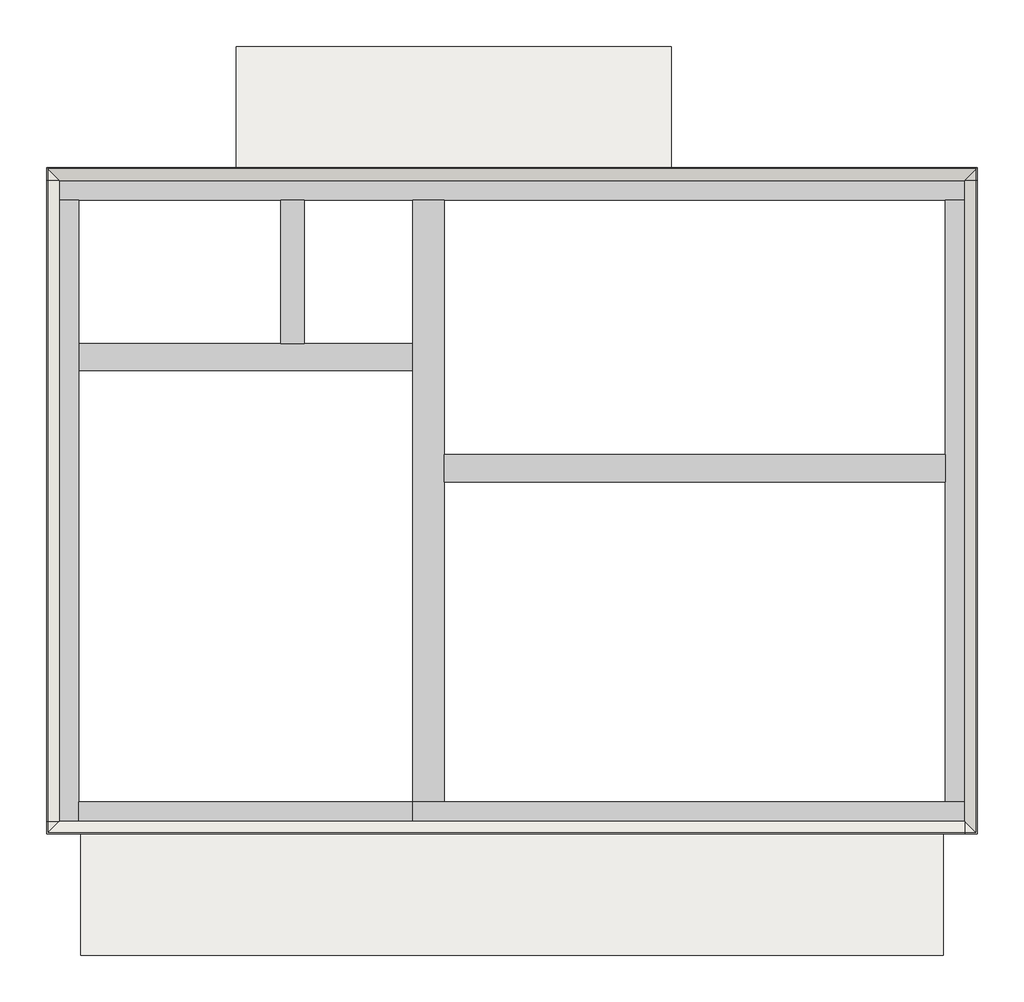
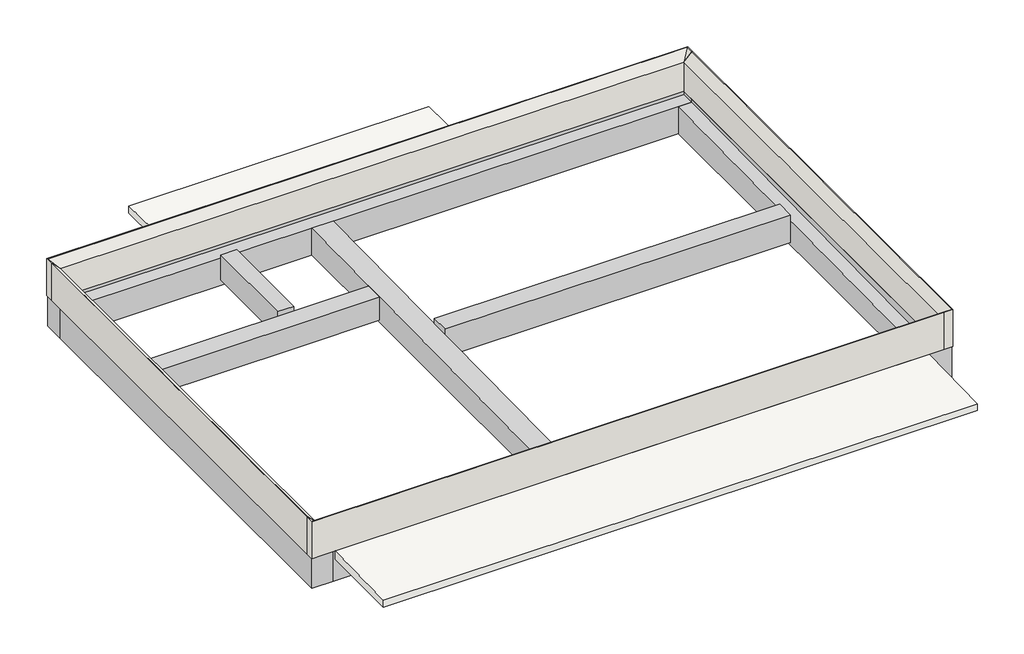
# One storey: 9 beams, 4 walls, 2 slabs.
"""IFC4 building model written with IfcOpenShell, lengths in millimetres."""

from ifc_helpers import new_model, si_unit, frame, origin, place, context, project, spatial, polyline, outline, extrude, faceted_brep, element, save

model = new_model("IFC4")

# Units and contexts
model_context = context("Model", 3, world=origin())
ifc_project = project(units=[si_unit("LENGTHUNIT", "METRE", prefix="MILLI")], contexts=[model_context])

# Site, building, storey
site = spatial("IfcSite", under=ifc_project)
building = spatial("IfcBuilding", under=site)
storey = spatial("IfcBuildingStorey", under=building, Name="RSL", Elevation=12480.0)

# Beams
placement = place(None, origin())
element("IfcBeam", 1, ObjectType="コンクリート-長方形梁 : B1-350x550", at=placement, inside=storey, context=model_context, shape_type="Brep", body=[
    faceted_brep([(-3381.7658988, 948.6001516, 11930.0), (-616.7658988, 948.6001516, 11930.0), (918.2341012, 948.6001516, 11930.0), (918.2341012, 948.6001516, 12384.3408938), (-3381.7658988, 948.6001516, 12384.3408938), (-3381.7658988, 1298.6001516, 11930.0), (918.2341012, 1298.6001516, 11930.0), (-3381.7658988, 1298.6001516, 12389.4318029), (918.2341012, 1298.6001516, 12389.4318029)], [[[0, 1, 2, 3, 4]], [[0, 5, 6, 2, 1]], [[6, 5, 7, 8]], [[5, 0, 4, 7]], [[2, 6, 8, 3]], [[4, 3, 8, 7]]]),
])
element("IfcBeam", 2, ObjectType="コンクリート-長方形梁 : B1-350x550", at=placement, inside=storey, context=model_context, shape_type="SweptSolid", body=[
    extrude(outline(polyline([(7768.2341012, -131.3998484), (7768.2341012, -481.3998484), (1318.2341012, -481.3998484), (1318.2341012, -131.3998484), (7768.2341012, -131.3998484)])), frame((0.0, 0.0, 11930.0), z_axis=(0.0, 0.0, 1.0), x_axis=(1.0, 0.0, 0.0)), (0.0, 0.0, 1.0), 550.0),
])
element("IfcBeam", 3, ObjectType="コンクリート-長方形梁 : B2-300x500", at=placement, inside=storey, context=model_context, shape_type="SweptSolid", body=[
    extrude(outline(polyline([(-481.7658988, 1298.6001516), (-781.7658988, 1298.6001516), (-781.7658988, 3148.6001516), (-481.7658988, 3148.6001516), (-481.7658988, 1298.6001516)])), frame((0.0, 0.0, 11980.0), z_axis=(0.0, 0.0, 1.0), x_axis=(1.0, 0.0, 0.0)), (0.0, 0.0, 1.0), 500.0),
])
element("IfcBeam", 4, ObjectType="コンクリート-長方形梁 : G1-400x600", at=placement, inside=storey, context=model_context, shape_type="Brep", body=[
    faceted_brep([(8168.2341012, -5001.3998484, 12480.0), (8168.2341012, -4601.3998484, 12480.0), (8018.2341012, -4601.3998484, 12480.0), (918.2341012, -4601.3998484, 12480.0), (918.2341012, -4851.3998484, 12480.0), (918.2341012, -5001.3998484, 12480.0), (8168.2341012, -5001.3998484, 11880.0), (918.2341012, -5001.3998484, 11880.0), (8168.2341012, -4601.3998484, 11880.0), (918.2341012, -4601.3998484, 11880.0), (1318.2341012, -4601.3998484, 11880.0), (7768.2341012, -4601.3998484, 11880.0), (918.2341012, -4601.3998484, 12303.613621)], [[[0, 1, 2, 3, 4, 5]], [[6, 0, 5, 7]], [[8, 6, 7, 9, 10, 11]], [[1, 8, 11, 10, 9, 12, 3, 2]], [[1, 0, 6, 8]], [[5, 4, 3, 12, 9, 7]]]),
])
element("IfcBeam", 5, ObjectType="コンクリート-長方形梁 : G1-400x600", at=placement, inside=storey, context=model_context, shape_type="Brep", body=[
    faceted_brep([(8168.2341012, 3148.6001516, 12480.0), (8168.2341012, 3548.6001516, 12480.0), (-699.2658988, 3548.6001516, 12480.0), (-3781.7658988, 3548.6001516, 12480.0), (-3781.7658988, 3398.6001516, 12480.0), (-3781.7658988, 3148.6001516, 12480.0), (-3631.7658988, 3148.6001516, 12480.0), (-3631.7658988, 3398.6001516, 12480.0), (8018.2341012, 3398.6001516, 12480.0), (8018.2341012, 3148.6001516, 12480.0), (8168.2341012, 3548.6001516, 11880.0), (-699.2658988, 3548.6001516, 11880.0), (-3781.7658988, 3548.6001516, 11880.0), (8168.2341012, 3148.6001516, 11880.0), (7768.2341012, 3148.6001516, 11880.0), (1318.2341012, 3148.6001516, 11880.0), (918.2341012, 3148.6001516, 11880.0), (-3381.7658988, 3148.6001516, 11880.0), (-3781.7658988, 3148.6001516, 11880.0), (-3781.7658988, 3398.6001516, 11880.0), (8018.2341012, 3148.6001516, 12416.3408938), (7768.2341012, 3148.6001516, 12416.3408938), (1318.2341012, 3148.6001516, 12416.3408938), (918.2341012, 3148.6001516, 12416.3408938), (-3381.7658988, 3148.6001516, 12416.3408938), (-3631.7658988, 3148.6001516, 12416.3408938), (8018.2341012, 3398.6001516, 12419.9772574), (-3631.7658988, 3398.6001516, 12419.9772574)], [[[0, 1, 2, 3, 4, 5, 6, 7, 8, 9]], [[1, 10, 11, 12, 3, 2]], [[10, 13, 14, 15, 16, 17, 18, 19, 12, 11]], [[13, 0, 9, 20, 21, 22, 23, 24, 25, 6, 5, 18, 17, 16, 15, 14]], [[1, 0, 13, 10]], [[5, 4, 3, 12, 19, 18]], [[26, 27, 25, 24, 23, 22, 21, 20]], [[25, 27, 7, 6]], [[27, 26, 8, 7]], [[26, 20, 9, 8]]]),
])
element("IfcBeam", 6, ObjectType="コンクリート-長方形梁 : G1-400x600", at=placement, inside=storey, context=model_context, shape_type="Brep", body=[
    faceted_brep([(8168.2341012, -4601.3998484, 12480.0), (8168.2341012, -221.3998484, 12480.0), (8168.2341012, 3148.6001516, 12480.0), (8018.2341012, 3148.6001516, 12480.0), (8018.2341012, -4601.3998484, 12480.0), (8168.2341012, -4601.3998484, 11880.0), (8168.2341012, -221.3998484, 11880.0), (8168.2341012, 3148.6001516, 11880.0), (7768.2341012, -4601.3998484, 11880.0), (7768.2341012, 3148.6001516, 11880.0), (7768.2341012, -4601.3998484, 12303.613621), (7768.2341012, 3148.6001516, 12416.3408938), (8018.2341012, -4601.3998484, 12303.613621), (8018.2341012, 3148.6001516, 12416.3408938)], [[[0, 1, 2, 3, 4]], [[0, 5, 6, 7, 2, 1]], [[5, 8, 9, 7, 6]], [[9, 8, 10, 11]], [[5, 0, 4, 12, 10, 8]], [[2, 7, 9, 11, 13, 3]], [[12, 13, 11, 10]], [[13, 12, 4, 3]]]),
])
element("IfcBeam", 7, ObjectType="コンクリート-長方形梁 : G1-400x600", at=placement, inside=storey, context=model_context, shape_type="Brep", body=[
    faceted_brep([(-3781.7658988, -5001.3998484, 12480.0), (-3381.7658988, -5001.3998484, 12480.0), (-3381.7658988, -4851.3998484, 12480.0), (-3631.7658988, -4851.3998484, 12480.0), (-3631.7658988, 3148.6001516, 12480.0), (-3781.7658988, 3148.6001516, 12480.0), (-3781.7658988, -1686.3998484, 12480.0), (-3781.7658988, -5001.3998484, 11880.0), (-3781.7658988, 3148.6001516, 11880.0), (-3781.7658988, -1686.3998484, 11880.0), (-3381.7658988, -5001.3998484, 11880.0), (-3381.7658988, 3148.6001516, 11880.0), (-3381.7658988, -4601.3998484, 11880.0), (-3381.7658988, 3148.6001516, 12416.3408938), (-3381.7658988, 1298.6001516, 12389.4318029), (-3381.7658988, 948.6001516, 12384.3408938), (-3381.7658988, -4601.3998484, 12303.613621), (-3381.7658988, -4851.3998484, 12299.9772574), (-3631.7658988, 3148.6001516, 12416.3408938), (-3631.7658988, -4851.3998484, 12299.9772574)], [[[0, 1, 2, 3, 4, 5, 6]], [[7, 0, 6, 5, 8, 9]], [[10, 7, 9, 8, 11, 12]], [[1, 10, 12, 11, 13, 14, 15, 16, 17, 2]], [[1, 0, 7, 10]], [[8, 5, 4, 18, 13, 11]], [[18, 19, 17, 16, 15, 14, 13]], [[17, 19, 3, 2]], [[19, 18, 4, 3]]]),
])
element("IfcBeam", 8, ObjectType="コンクリート-長方形梁 : G1-400x600", at=placement, inside=storey, context=model_context, shape_type="Brep", body=[
    faceted_brep([(918.2341012, 3148.6001516, 11880.0), (918.2341012, 1113.6001516, 11880.0), (918.2341012, -1601.3998484, 11880.0), (918.2341012, -4601.3998484, 11880.0), (918.2341012, -4601.3998484, 12303.613621), (918.2341012, 948.6001516, 12384.3408938), (918.2341012, 1298.6001516, 12389.4318029), (918.2341012, 3148.6001516, 12416.3408938), (1318.2341012, -4601.3998484, 11880.0), (1318.2341012, 3148.6001516, 11880.0), (1318.2341012, 3148.6001516, 12416.3408938), (1318.2341012, -4601.3998484, 12303.613621)], [[[0, 1, 2, 3, 4, 5, 6, 7]], [[8, 3, 2, 1, 0, 9]], [[8, 9, 10, 11]], [[3, 8, 11, 4]], [[9, 0, 7, 10]], [[7, 6, 5, 4, 11, 10]]]),
])
element("IfcBeam", 9, ObjectType="コンクリート-長方形梁 : G1-400x600", at=placement, inside=storey, context=model_context, shape_type="Brep", body=[
    faceted_brep([(-3381.7658988, -5001.3998484, 12480.0), (870.7341012, -5001.3998484, 12480.0), (918.2341012, -5001.3998484, 12480.0), (918.2341012, -4851.3998484, 12480.0), (-3381.7658988, -4851.3998484, 12480.0), (-3381.7658988, -5001.3998484, 11880.0), (870.7341012, -5001.3998484, 11880.0), (918.2341012, -5001.3998484, 11880.0), (-3381.7658988, -4601.3998484, 11880.0), (918.2341012, -4601.3998484, 11880.0), (-3381.7658988, -4601.3998484, 12303.613621), (918.2341012, -4601.3998484, 12303.613621), (-3381.7658988, -4851.3998484, 12299.9772574), (918.2341012, -4851.3998484, 12299.9772574)], [[[0, 1, 2, 3, 4]], [[0, 5, 6, 7, 2, 1]], [[5, 8, 9, 7, 6]], [[9, 8, 10, 11]], [[5, 0, 4, 12, 10, 8]], [[2, 7, 9, 11, 13, 3]], [[12, 13, 11, 10]], [[13, 12, 4, 3]]]),
])

# Slabs
element("IfcSlab", 10, ObjectType="一般 150 mm+15mm", at=placement, inside=storey, context=model_context, shape_type="SweptSolid", body=[
    extrude(outline(polyline([(-5016.3998484, 12315.0), (-6576.3998484, 12315.0), (-6576.3998484, 12450.0), (-5016.3998484, 12480.0), (-5016.3998484, 12315.0)])), frame((-3356.7658988, 0.0, 0.0), z_axis=(1.0, 0.0, 0.0), x_axis=(0.0, 1.0, 0.0)), (0.0, 0.0, 1.0), 11100.0),
])
element("IfcSlab", 11, ObjectType="一般 150 mm+15mm", at=placement, inside=storey, context=model_context, shape_type="SweptSolid", body=[
    extrude(outline(polyline([(5123.6001516, 12315.0), (3563.6001516, 12315.0), (3563.6001516, 12480.0), (5123.6001516, 12450.0), (5123.6001516, 12315.0)])), frame((-1356.7658988, 0.0, 0.0), z_axis=(1.0, 0.0, 0.0), x_axis=(0.0, 1.0, 0.0)), (0.0, 0.0, 1.0), 5600.0),
])

# Walls
element("IfcWall", 12, ObjectType="パラペット-150mm+15mm", at=placement, inside=storey, context=model_context, shape_type="Brep", body=[
    faceted_brep([(-3796.7658988, 3398.6001516, 12480.0), (-3781.7658988, 3398.6001516, 12480.0), (-3631.7658988, 3398.6001516, 12480.0), (8018.2341012, 3398.6001516, 12480.0), (8183.2341012, 3398.6001516, 12480.0), (8183.2341012, 3398.6001516, 13210.0), (8168.2341012, 3398.6001516, 13210.0), (8018.2341012, 3398.6001516, 13060.0), (-3631.7658988, 3398.6001516, 13060.0), (-3781.7658988, 3398.6001516, 13210.0), (-3796.7658988, 3398.6001516, 13210.0), (8183.2341012, 3563.6001516, 12480.0), (-699.2658988, 3563.6001516, 12480.0), (-3796.7658988, 3563.6001516, 12480.0), (-3796.7658988, 3563.6001516, 13210.0), (8183.2341012, 3563.6001516, 13210.0), (-3781.7658988, 3548.6001516, 13210.0), (8168.2341012, 3548.6001516, 13210.0)], [[[0, 1, 2, 3, 4, 5, 6, 7, 8, 9, 10]], [[11, 12, 13, 14, 15]], [[4, 3, 2, 1, 0, 13, 12, 11]], [[15, 14, 10, 9, 16, 17, 6, 5]], [[5, 4, 11, 15]], [[0, 10, 14, 13]], [[8, 16, 9]], [[16, 8, 7, 17]], [[17, 7, 6]]]),
])
element("IfcWall", 13, ObjectType="パラペット-150mm+15mm", at=placement, inside=storey, context=model_context, shape_type="Brep", body=[
    faceted_brep([(8018.2341012, 3398.6001516, 12480.0), (8018.2341012, 3148.6001516, 12480.0), (8018.2341012, -4601.3998484, 12480.0), (8018.2341012, -4851.3998484, 12480.0), (8018.2341012, -5016.3998484, 12480.0), (8018.2341012, -5016.3998484, 13210.0), (8018.2341012, -5001.3998484, 13210.0), (8018.2341012, -4851.3998484, 13060.0), (8018.2341012, 3398.6001516, 13060.0), (8018.2341012, 3398.6001516, 12635.0), (8183.2341012, -5016.3998484, 12480.0), (8183.2341012, -2826.3998484, 12480.0), (8183.2341012, -221.3998484, 12480.0), (8183.2341012, 3378.6001516, 12480.0), (8183.2341012, 3398.6001516, 12480.0), (8183.2341012, 3398.6001516, 13210.0), (8183.2341012, -5016.3998484, 13210.0), (8168.2341012, 3398.6001516, 13210.0), (8168.2341012, -5001.3998484, 13210.0)], [[[0, 1, 2, 3, 4, 5, 6, 7, 8, 9]], [[10, 11, 12, 13, 14, 15, 16]], [[4, 3, 2, 1, 0, 14, 13, 12, 11, 10]], [[16, 15, 17, 18, 6, 5]], [[15, 14, 0, 9, 8, 17]], [[5, 4, 10, 16]], [[7, 18, 17, 8]], [[18, 7, 6]]]),
])
element("IfcWall", 14, ObjectType="パラペット-150mm+15mm", at=placement, inside=storey, context=model_context, shape_type="Brep", body=[
    faceted_brep([(8018.2341012, -4851.3998484, 12480.0), (918.2341012, -4851.3998484, 12480.0), (-3381.7658988, -4851.3998484, 12480.0), (-3631.7658988, -4851.3998484, 12480.0), (-3796.7658988, -4851.3998484, 12480.0), (-3796.7658988, -4851.3998484, 13210.0), (-3781.7658988, -4851.3998484, 13210.0), (-3631.7658988, -4851.3998484, 13060.0), (8018.2341012, -4851.3998484, 13060.0), (-3796.7658988, -5016.3998484, 12480.0), (-3611.7658988, -5016.3998484, 12480.0), (870.7341012, -5016.3998484, 12480.0), (8018.2341012, -5016.3998484, 12480.0), (8018.2341012, -5016.3998484, 13210.0), (-3796.7658988, -5016.3998484, 13210.0), (8018.2341012, -5001.3998484, 13210.0), (-3781.7658988, -5001.3998484, 13210.0)], [[[0, 1, 2, 3, 4, 5, 6, 7, 8]], [[9, 10, 11, 12, 13, 14]], [[4, 3, 2, 1, 0, 12, 11, 10, 9]], [[14, 13, 15, 16, 6, 5]], [[13, 12, 0, 8, 15]], [[5, 4, 9, 14]], [[7, 16, 15, 8]], [[16, 7, 6]]]),
])
element("IfcWall", 15, ObjectType="パラペット-150mm+15mm", at=placement, inside=storey, context=model_context, shape_type="Brep", body=[
    faceted_brep([(-3631.7658988, -4851.3998484, 12480.0), (-3631.7658988, 3148.6001516, 12480.0), (-3631.7658988, 3398.6001516, 12480.0), (-3631.7658988, 3398.6001516, 12635.0), (-3631.7658988, 3398.6001516, 13060.0), (-3631.7658988, -4851.3998484, 13060.0), (-3631.7658988, -4851.3998484, 12515.0), (-3796.7658988, 3398.6001516, 12480.0), (-3796.7658988, -1686.3998484, 12480.0), (-3796.7658988, -4851.3998484, 12480.0), (-3796.7658988, -4851.3998484, 13210.0), (-3796.7658988, 3398.6001516, 13210.0), (-3781.7658988, 3398.6001516, 12480.0), (-3781.7658988, -4851.3998484, 13210.0), (-3781.7658988, 3398.6001516, 13210.0)], [[[0, 1, 2, 3, 4, 5, 6]], [[7, 8, 9, 10, 11]], [[2, 1, 0, 9, 8, 7, 12]], [[11, 10, 13, 14]], [[2, 12, 7, 11, 14, 4, 3]], [[10, 9, 0, 6, 5, 13]], [[5, 4, 14, 13]]]),
])

save(model, "model.ifc")
